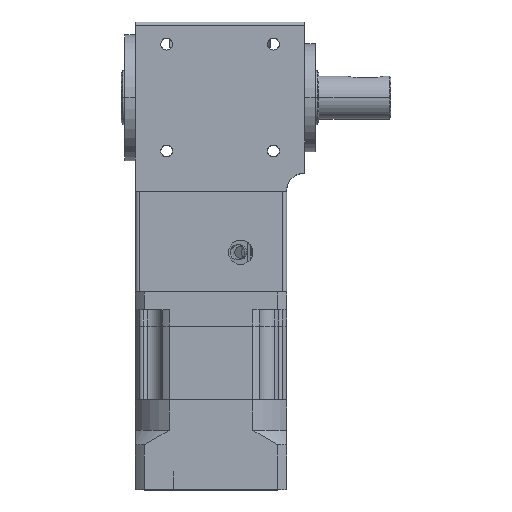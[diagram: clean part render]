
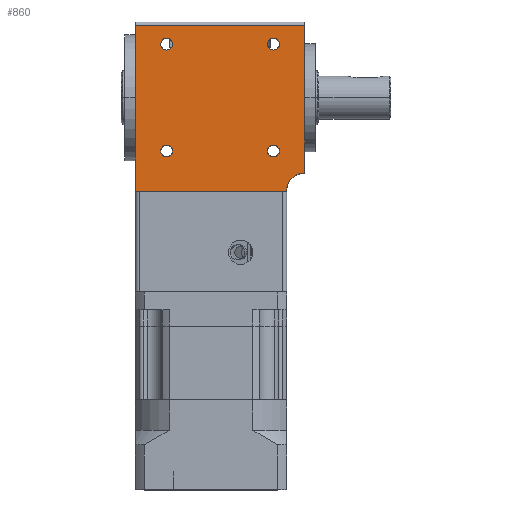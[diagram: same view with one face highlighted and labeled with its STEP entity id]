
A CAD part, top view. The second image highlights one B-rep face of the part: STEP entity #860.
In plain terms, the highlighted planar face has unit normal (0, 0, 1).
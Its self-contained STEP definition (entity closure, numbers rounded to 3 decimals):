
#176 = CARTESIAN_POINT ( 'NONE',  ( -34.714, 4.507, 21. ) ) ;
#397 = DIRECTION ( 'NONE',  ( 0., 0., 1. ) ) ;
#569 = DIRECTION ( 'NONE',  ( 1., 0., 0. ) ) ;
#608 = DIRECTION ( 'NONE',  ( 0., 0., 1. ) ) ;
#626 = CARTESIAN_POINT ( 'NONE',  ( -5.015, 4.507, 21. ) ) ;
#700 = EDGE_CURVE ( 'NONE', #11009, #6450, #4736, .T. ) ;
#806 = CIRCLE ( 'NONE', #6145, 1.65 ) ;
#860 = ADVANCED_FACE ( 'NONE', ( #3192, #3204, #3381, #3173, #3156 ), #14321, .F. ) ;
#988 = CARTESIAN_POINT ( 'NONE',  ( -6.665, 34.205, 21. ) ) ;
#1090 = LINE ( 'NONE', #14622, #5132 ) ;
#1343 = CARTESIAN_POINT ( 'NONE',  ( -36.364, 4.507, 21. ) ) ;
#1445 = VERTEX_POINT ( 'NONE', #9967 ) ;
#1715 = CARTESIAN_POINT ( 'NONE',  ( -33.064, 34.205, 21. ) ) ;
#1998 = CARTESIAN_POINT ( 'NONE',  ( -1.364, -6.644, 21. ) ) ;
#2212 = CARTESIAN_POINT ( 'NONE',  ( -43.364, 39.356, 21. ) ) ;
#2764 = VERTEX_POINT ( 'NONE', #6274 ) ;
#3124 = DIRECTION ( 'NONE',  ( 1., 0., 0. ) ) ;
#3156 = FACE_BOUND ( 'NONE', #4156, .T. ) ;
#3168 = CARTESIAN_POINT ( 'NONE',  ( -34.714, 34.205, 21. ) ) ;
#3173 = FACE_BOUND ( 'NONE', #4656, .T. ) ;
#3192 = FACE_OUTER_BOUND ( 'NONE', #4040, .T. ) ;
#3204 = FACE_BOUND ( 'NONE', #4249, .T. ) ;
#3265 = LINE ( 'NONE', #14340, #5761 ) ;
#3275 = DIRECTION ( 'NONE',  ( 1., 0., 0. ) ) ;
#3283 = DIRECTION ( 'NONE',  ( 0., 0., 1. ) ) ;
#3381 = FACE_BOUND ( 'NONE', #3846, .T. ) ;
#3408 = DIRECTION ( 'NONE',  ( 0., 0., 1. ) ) ;
#3503 = CARTESIAN_POINT ( 'NONE',  ( 3.636, -6.644, 21. ) ) ;
#3692 = EDGE_CURVE ( 'NONE', #7661, #6207, #11594, .T. ) ;
#3846 = EDGE_LOOP ( 'NONE', ( #10931, #11007 ) ) ;
#3883 = EDGE_CURVE ( 'NONE', #12068, #5108, #9657, .T. ) ;
#4040 = EDGE_LOOP ( 'NONE', ( #9326, #9574, #9935, #10211, #10445 ) ) ;
#4156 = EDGE_LOOP ( 'NONE', ( #11442, #11583 ) ) ;
#4249 = EDGE_LOOP ( 'NONE', ( #10669, #10762 ) ) ;
#4257 = CIRCLE ( 'NONE', #7461, 1.65 ) ;
#4520 = EDGE_CURVE ( 'NONE', #5108, #12068, #6396, .T. ) ;
#4618 = DIRECTION ( 'NONE',  ( 0., 0., 1. ) ) ;
#4629 = EDGE_CURVE ( 'NONE', #6450, #11009, #8475, .T. ) ;
#4656 = EDGE_LOOP ( 'NONE', ( #11183, #11285 ) ) ;
#4736 = CIRCLE ( 'NONE', #11215, 1.65 ) ;
#4825 = VERTEX_POINT ( 'NONE', #8571 ) ;
#5060 = CIRCLE ( 'NONE', #6361, 1.65 ) ;
#5108 = VERTEX_POINT ( 'NONE', #1343 ) ;
#5132 = VECTOR ( 'NONE', #14969, 1000. ) ;
#5155 = VERTEX_POINT ( 'NONE', #12854 ) ;
#5431 = EDGE_CURVE ( 'NONE', #4825, #6401, #11574, .T. ) ;
#5482 = CARTESIAN_POINT ( 'NONE',  ( -6.665, 4.507, 21. ) ) ;
#5578 = AXIS2_PLACEMENT_3D ( 'NONE', #3503, #3408, #3275 ) ;
#5672 = AXIS2_PLACEMENT_3D ( 'NONE', #9010, #8961, #7555 ) ;
#5761 = VECTOR ( 'NONE', #8372, 1000. ) ;
#5957 = EDGE_CURVE ( 'NONE', #6401, #5155, #3265, .T. ) ;
#6145 = AXIS2_PLACEMENT_3D ( 'NONE', #12953, #12938, #12893 ) ;
#6207 = VERTEX_POINT ( 'NONE', #5482 ) ;
#6274 = CARTESIAN_POINT ( 'NONE',  ( -3.365, 34.205, 21. ) ) ;
#6361 = AXIS2_PLACEMENT_3D ( 'NONE', #11633, #4618, #12740 ) ;
#6396 = CIRCLE ( 'NONE', #5672, 1.65 ) ;
#6401 = VERTEX_POINT ( 'NONE', #1998 ) ;
#6450 = VERTEX_POINT ( 'NONE', #1715 ) ;
#6580 = DIRECTION ( 'NONE',  ( 1., 0., 0. ) ) ;
#6619 = DIRECTION ( 'NONE',  ( 0., 0., 1. ) ) ;
#6642 = CARTESIAN_POINT ( 'NONE',  ( -5.015, 34.205, 21. ) ) ;
#6821 = CARTESIAN_POINT ( 'NONE',  ( -3.365, 4.507, 21. ) ) ;
#7329 = DIRECTION ( 'NONE',  ( 0., -1., 0. ) ) ;
#7461 = AXIS2_PLACEMENT_3D ( 'NONE', #6642, #6619, #6580 ) ;
#7555 = DIRECTION ( 'NONE',  ( 1., 0., 0. ) ) ;
#7594 = CARTESIAN_POINT ( 'NONE',  ( 3.636, -6.644, 21. ) ) ;
#7661 = VERTEX_POINT ( 'NONE', #6821 ) ;
#7798 = EDGE_CURVE ( 'NONE', #10192, #1445, #1090, .T. ) ;
#7893 = EDGE_CURVE ( 'NONE', #6207, #7661, #806, .T. ) ;
#8098 = EDGE_CURVE ( 'NONE', #5155, #10192, #14513, .T. ) ;
#8194 = EDGE_CURVE ( 'NONE', #1445, #4825, #10576, .T. ) ;
#8217 = EDGE_CURVE ( 'NONE', #2764, #11936, #4257, .T. ) ;
#8290 = VECTOR ( 'NONE', #10680, 1000. ) ;
#8372 = DIRECTION ( 'NONE',  ( -1., 0., 0. ) ) ;
#8475 = CIRCLE ( 'NONE', #11145, 1.65 ) ;
#8571 = CARTESIAN_POINT ( 'NONE',  ( 3.636, -1.644, 21. ) ) ;
#8918 = CARTESIAN_POINT ( 'NONE',  ( -36.364, 34.205, 21. ) ) ;
#8961 = DIRECTION ( 'NONE',  ( 0., 0., 1. ) ) ;
#9010 = CARTESIAN_POINT ( 'NONE',  ( -34.714, 4.507, 21. ) ) ;
#9326 = ORIENTED_EDGE ( 'NONE', *, *, #7798, .F. ) ;
#9574 = ORIENTED_EDGE ( 'NONE', *, *, #8098, .F. ) ;
#9655 = AXIS2_PLACEMENT_3D ( 'NONE', #14231, #14218, #14183 ) ;
#9657 = CIRCLE ( 'NONE', #14887, 1.65 ) ;
#9843 = CARTESIAN_POINT ( 'NONE',  ( -33.064, 4.507, 21. ) ) ;
#9935 = ORIENTED_EDGE ( 'NONE', *, *, #5957, .F. ) ;
#9967 = CARTESIAN_POINT ( 'NONE',  ( 3.636, 39.356, 21. ) ) ;
#10192 = VERTEX_POINT ( 'NONE', #2212 ) ;
#10211 = ORIENTED_EDGE ( 'NONE', *, *, #5431, .F. ) ;
#10445 = ORIENTED_EDGE ( 'NONE', *, *, #8194, .F. ) ;
#10576 = LINE ( 'NONE', #7594, #13160 ) ;
#10669 = ORIENTED_EDGE ( 'NONE', *, *, #4629, .F. ) ;
#10680 = DIRECTION ( 'NONE',  ( 0., 1., 0. ) ) ;
#10740 = CARTESIAN_POINT ( 'NONE',  ( -43.364, -6.644, 21. ) ) ;
#10762 = ORIENTED_EDGE ( 'NONE', *, *, #700, .F. ) ;
#10931 = ORIENTED_EDGE ( 'NONE', *, *, #3883, .F. ) ;
#11007 = ORIENTED_EDGE ( 'NONE', *, *, #4520, .F. ) ;
#11009 = VERTEX_POINT ( 'NONE', #8918 ) ;
#11145 = AXIS2_PLACEMENT_3D ( 'NONE', #14338, #14296, #14254 ) ;
#11183 = ORIENTED_EDGE ( 'NONE', *, *, #3692, .F. ) ;
#11215 = AXIS2_PLACEMENT_3D ( 'NONE', #3168, #3283, #3124 ) ;
#11285 = ORIENTED_EDGE ( 'NONE', *, *, #7893, .F. ) ;
#11442 = ORIENTED_EDGE ( 'NONE', *, *, #8217, .F. ) ;
#11574 = CIRCLE ( 'NONE', #5578, 5. ) ;
#11583 = ORIENTED_EDGE ( 'NONE', *, *, #14559, .F. ) ;
#11594 = CIRCLE ( 'NONE', #14435, 1.65 ) ;
#11633 = CARTESIAN_POINT ( 'NONE',  ( -5.015, 34.205, 21. ) ) ;
#11936 = VERTEX_POINT ( 'NONE', #988 ) ;
#12068 = VERTEX_POINT ( 'NONE', #9843 ) ;
#12740 = DIRECTION ( 'NONE',  ( 1., 0., 0. ) ) ;
#12854 = CARTESIAN_POINT ( 'NONE',  ( -43.364, -6.644, 21. ) ) ;
#12893 = DIRECTION ( 'NONE',  ( 1., 0., 0. ) ) ;
#12938 = DIRECTION ( 'NONE',  ( 0., 0., 1. ) ) ;
#12953 = CARTESIAN_POINT ( 'NONE',  ( -5.015, 4.507, 21. ) ) ;
#13160 = VECTOR ( 'NONE', #7329, 1000. ) ;
#14183 = DIRECTION ( 'NONE',  ( -1., 0., 0. ) ) ;
#14218 = DIRECTION ( 'NONE',  ( 0., 0., -1. ) ) ;
#14231 = CARTESIAN_POINT ( 'NONE',  ( 6.636, -6.644, 21. ) ) ;
#14254 = DIRECTION ( 'NONE',  ( 1., 0., 0. ) ) ;
#14296 = DIRECTION ( 'NONE',  ( 0., 0., 1. ) ) ;
#14321 = PLANE ( 'NONE',  #9655 ) ;
#14338 = CARTESIAN_POINT ( 'NONE',  ( -34.714, 34.205, 21. ) ) ;
#14340 = CARTESIAN_POINT ( 'NONE',  ( 6.636, -6.644, 21. ) ) ;
#14435 = AXIS2_PLACEMENT_3D ( 'NONE', #626, #608, #569 ) ;
#14513 = LINE ( 'NONE', #10740, #8290 ) ;
#14559 = EDGE_CURVE ( 'NONE', #11936, #2764, #5060, .T. ) ;
#14622 = CARTESIAN_POINT ( 'NONE',  ( 6.636, 39.356, 21. ) ) ;
#14887 = AXIS2_PLACEMENT_3D ( 'NONE', #176, #397, #15145 ) ;
#14969 = DIRECTION ( 'NONE',  ( 1., 0., 0. ) ) ;
#15145 = DIRECTION ( 'NONE',  ( 1., 0., 0. ) ) ;
